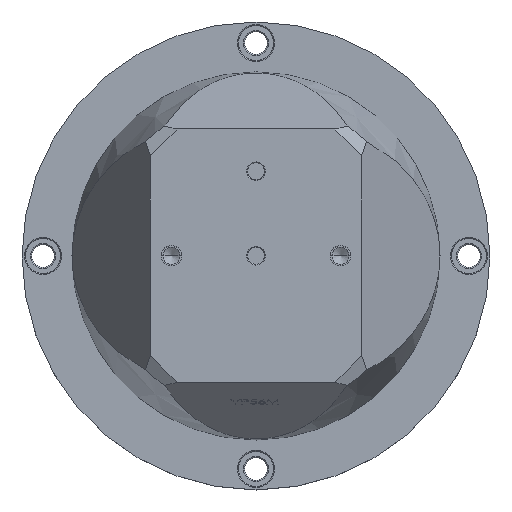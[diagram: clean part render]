
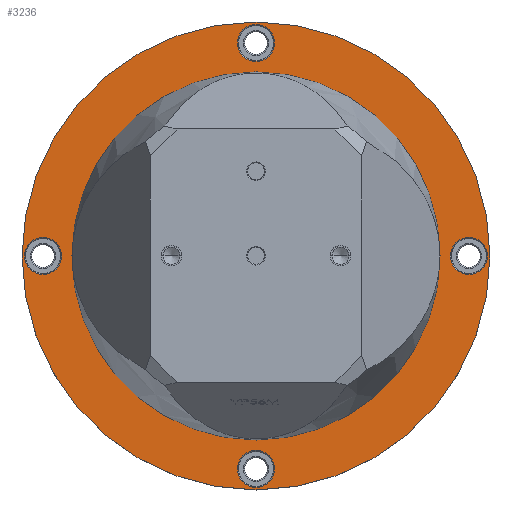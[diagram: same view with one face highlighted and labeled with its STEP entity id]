
A CAD part, top view. The second image highlights one B-rep face of the part: STEP entity #3236.
In plain terms, the highlighted planar face has unit normal (0, 0, 1).
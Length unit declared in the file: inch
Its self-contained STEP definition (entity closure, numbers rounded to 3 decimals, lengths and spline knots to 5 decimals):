
#112 = EDGE_LOOP ( 'NONE', ( #7241, #5491 ) ) ;
#124 = DIRECTION ( 'NONE',  ( 1., 0., 0. ) ) ;
#227 = CARTESIAN_POINT ( 'NONE',  ( 4.96063, 0., 1. ) ) ;
#267 = CARTESIAN_POINT ( 'NONE',  ( 5.39188, 0., 1. ) ) ;
#389 = EDGE_CURVE ( 'NONE', #5970, #6021, #2537, .T. ) ;
#438 = DIRECTION ( 'NONE',  ( 1., 0., 0. ) ) ;
#462 = AXIS2_PLACEMENT_3D ( 'NONE', #791, #4853, #1368 ) ;
#487 = DIRECTION ( 'NONE',  ( 0., 0., -1. ) ) ;
#607 = CARTESIAN_POINT ( 'NONE',  ( 0., 4.96063, 1. ) ) ;
#620 = AXIS2_PLACEMENT_3D ( 'NONE', #7422, #3901, #438 ) ;
#633 = CARTESIAN_POINT ( 'NONE',  ( -0.43125, 4.96063, 1. ) ) ;
#791 = CARTESIAN_POINT ( 'NONE',  ( -4.96063, 0., 1. ) ) ;
#863 = FACE_BOUND ( 'NONE', #957, .T. ) ;
#957 = EDGE_LOOP ( 'NONE', ( #1129, #6102 ) ) ;
#988 = CARTESIAN_POINT ( 'NONE',  ( -4.28744, 0., 1. ) ) ;
#1089 = VERTEX_POINT ( 'NONE', #5939 ) ;
#1129 = ORIENTED_EDGE ( 'NONE', *, *, #3529, .F. ) ;
#1196 = DIRECTION ( 'NONE',  ( 1., 0., 0. ) ) ;
#1211 = CIRCLE ( 'NONE', #2397, 0.43125 ) ;
#1218 = AXIS2_PLACEMENT_3D ( 'NONE', #1811, #5896, #2385 ) ;
#1327 = CIRCLE ( 'NONE', #2908, 5.45 ) ;
#1337 = DIRECTION ( 'NONE',  ( 0., 0., 1. ) ) ;
#1368 = DIRECTION ( 'NONE',  ( 1., 0., 0. ) ) ;
#1665 = CIRCLE ( 'NONE', #7474, 4.28744 ) ;
#1714 = CIRCLE ( 'NONE', #1218, 5.45 ) ;
#1801 = EDGE_CURVE ( 'NONE', #4294, #6140, #6081, .T. ) ;
#1811 = CARTESIAN_POINT ( 'NONE',  ( 0., 0., 1. ) ) ;
#1813 = CARTESIAN_POINT ( 'NONE',  ( -0.43125, -4.96063, 1. ) ) ;
#1836 = DIRECTION ( 'NONE',  ( 0., 0., 1. ) ) ;
#1889 = AXIS2_PLACEMENT_3D ( 'NONE', #4818, #1337, #5401 ) ;
#2039 = CARTESIAN_POINT ( 'NONE',  ( 0., 0., 1. ) ) ;
#2108 = VERTEX_POINT ( 'NONE', #633 ) ;
#2110 = EDGE_CURVE ( 'NONE', #6021, #5970, #3689, .T. ) ;
#2214 = VERTEX_POINT ( 'NONE', #6616 ) ;
#2216 = FACE_BOUND ( 'NONE', #5484, .T. ) ;
#2217 = EDGE_CURVE ( 'NONE', #7046, #5498, #6438, .T. ) ;
#2225 = DIRECTION ( 'NONE',  ( 0., 0., -1. ) ) ;
#2385 = DIRECTION ( 'NONE',  ( -1., 0., 0. ) ) ;
#2386 = EDGE_LOOP ( 'NONE', ( #5096, #6830 ) ) ;
#2393 = FACE_BOUND ( 'NONE', #2386, .T. ) ;
#2397 = AXIS2_PLACEMENT_3D ( 'NONE', #2725, #6845, #3311 ) ;
#2420 = AXIS2_PLACEMENT_3D ( 'NONE', #7482, #487, #4533 ) ;
#2445 = CARTESIAN_POINT ( 'NONE',  ( 0., 0., 1. ) ) ;
#2452 = CIRCLE ( 'NONE', #6097, 0.43125 ) ;
#2536 = EDGE_LOOP ( 'NONE', ( #6268, #7271 ) ) ;
#2537 = CIRCLE ( 'NONE', #6289, 0.43125 ) ;
#2609 = EDGE_CURVE ( 'NONE', #2214, #3746, #1327, .T. ) ;
#2626 = DIRECTION ( 'NONE',  ( -1., 0., 0. ) ) ;
#2725 = CARTESIAN_POINT ( 'NONE',  ( 0., -4.96063, 1. ) ) ;
#2732 = ORIENTED_EDGE ( 'NONE', *, *, #2609, .F. ) ;
#2908 = AXIS2_PLACEMENT_3D ( 'NONE', #5730, #2225, #6335 ) ;
#3018 = ORIENTED_EDGE ( 'NONE', *, *, #5097, .T. ) ;
#3037 = DIRECTION ( 'NONE',  ( 0., 0., 1. ) ) ;
#3236 = ADVANCED_FACE ( 'NONE', ( #5307, #863, #5502, #2393, #3953, #2216 ), #5680, .F. ) ;
#3311 = DIRECTION ( 'NONE',  ( 1., 0., 0. ) ) ;
#3335 = EDGE_CURVE ( 'NONE', #2108, #1089, #4394, .T. ) ;
#3346 = AXIS2_PLACEMENT_3D ( 'NONE', #2445, #3615, #4192 ) ;
#3521 = CARTESIAN_POINT ( 'NONE',  ( 0.43125, -4.96063, 1. ) ) ;
#3529 = EDGE_CURVE ( 'NONE', #5498, #7046, #7450, .T. ) ;
#3601 = DIRECTION ( 'NONE',  ( 0., 0., 1. ) ) ;
#3615 = DIRECTION ( 'NONE',  ( 0., 0., -1. ) ) ;
#3689 = CIRCLE ( 'NONE', #4887, 0.43125 ) ;
#3746 = VERTEX_POINT ( 'NONE', #3925 ) ;
#3901 = DIRECTION ( 'NONE',  ( 0., 0., 1. ) ) ;
#3925 = CARTESIAN_POINT ( 'NONE',  ( -5.45, 0., 1. ) ) ;
#3933 = ORIENTED_EDGE ( 'NONE', *, *, #6692, .F. ) ;
#3953 = FACE_OUTER_BOUND ( 'NONE', #4669, .T. ) ;
#4192 = DIRECTION ( 'NONE',  ( -1., 0., 0. ) ) ;
#4264 = EDGE_CURVE ( 'NONE', #5895, #7427, #1211, .T. ) ;
#4294 = VERTEX_POINT ( 'NONE', #5767 ) ;
#4394 = CIRCLE ( 'NONE', #5955, 0.43125 ) ;
#4414 = ORIENTED_EDGE ( 'NONE', *, *, #1801, .T. ) ;
#4533 = DIRECTION ( 'NONE',  ( -1., 0., 0. ) ) ;
#4662 = DIRECTION ( 'NONE',  ( 0., 0., 1. ) ) ;
#4669 = EDGE_LOOP ( 'NONE', ( #3933, #2732 ) ) ;
#4818 = CARTESIAN_POINT ( 'NONE',  ( -4.96063, 0., 1. ) ) ;
#4853 = DIRECTION ( 'NONE',  ( 0., 0., 1. ) ) ;
#4887 = AXIS2_PLACEMENT_3D ( 'NONE', #7126, #3601, #124 ) ;
#4897 = CARTESIAN_POINT ( 'NONE',  ( -4.52938, 0., 1. ) ) ;
#5096 = ORIENTED_EDGE ( 'NONE', *, *, #5577, .F. ) ;
#5097 = EDGE_CURVE ( 'NONE', #6140, #4294, #1665, .T. ) ;
#5307 = FACE_BOUND ( 'NONE', #112, .T. ) ;
#5312 = CARTESIAN_POINT ( 'NONE',  ( 0., 4.96063, 1. ) ) ;
#5401 = DIRECTION ( 'NONE',  ( 1., 0., 0. ) ) ;
#5457 = DIRECTION ( 'NONE',  ( 1., 0., 0. ) ) ;
#5484 = EDGE_LOOP ( 'NONE', ( #4414, #3018 ) ) ;
#5491 = ORIENTED_EDGE ( 'NONE', *, *, #389, .F. ) ;
#5498 = VERTEX_POINT ( 'NONE', #4897 ) ;
#5502 = FACE_BOUND ( 'NONE', #2536, .T. ) ;
#5577 = EDGE_CURVE ( 'NONE', #7427, #5895, #7239, .T. ) ;
#5680 = PLANE ( 'NONE',  #2420 ) ;
#5730 = CARTESIAN_POINT ( 'NONE',  ( 0., 0., 1. ) ) ;
#5767 = CARTESIAN_POINT ( 'NONE',  ( 4.28744, 0., 1. ) ) ;
#5895 = VERTEX_POINT ( 'NONE', #1813 ) ;
#5896 = DIRECTION ( 'NONE',  ( 0., 0., -1. ) ) ;
#5920 = EDGE_CURVE ( 'NONE', #1089, #2108, #2452, .T. ) ;
#5921 = DIRECTION ( 'NONE',  ( 1., 0., 0. ) ) ;
#5939 = CARTESIAN_POINT ( 'NONE',  ( 0.43125, 4.96063, 1. ) ) ;
#5955 = AXIS2_PLACEMENT_3D ( 'NONE', #607, #4662, #1196 ) ;
#5970 = VERTEX_POINT ( 'NONE', #6550 ) ;
#6021 = VERTEX_POINT ( 'NONE', #267 ) ;
#6081 = CIRCLE ( 'NONE', #3346, 4.28744 ) ;
#6097 = AXIS2_PLACEMENT_3D ( 'NONE', #5312, #1836, #5921 ) ;
#6102 = ORIENTED_EDGE ( 'NONE', *, *, #2217, .F. ) ;
#6134 = DIRECTION ( 'NONE',  ( 0., 0., -1. ) ) ;
#6140 = VERTEX_POINT ( 'NONE', #988 ) ;
#6268 = ORIENTED_EDGE ( 'NONE', *, *, #5920, .F. ) ;
#6289 = AXIS2_PLACEMENT_3D ( 'NONE', #227, #3037, #5457 ) ;
#6335 = DIRECTION ( 'NONE',  ( -1., 0., 0. ) ) ;
#6438 = CIRCLE ( 'NONE', #462, 0.43125 ) ;
#6480 = CARTESIAN_POINT ( 'NONE',  ( -5.39188, 0., 1. ) ) ;
#6550 = CARTESIAN_POINT ( 'NONE',  ( 4.52938, 0., 1. ) ) ;
#6616 = CARTESIAN_POINT ( 'NONE',  ( 5.45, 0., 1. ) ) ;
#6692 = EDGE_CURVE ( 'NONE', #3746, #2214, #1714, .T. ) ;
#6830 = ORIENTED_EDGE ( 'NONE', *, *, #4264, .F. ) ;
#6845 = DIRECTION ( 'NONE',  ( 0., 0., 1. ) ) ;
#7046 = VERTEX_POINT ( 'NONE', #6480 ) ;
#7126 = CARTESIAN_POINT ( 'NONE',  ( 4.96063, 0., 1. ) ) ;
#7239 = CIRCLE ( 'NONE', #620, 0.43125 ) ;
#7241 = ORIENTED_EDGE ( 'NONE', *, *, #2110, .F. ) ;
#7271 = ORIENTED_EDGE ( 'NONE', *, *, #3335, .F. ) ;
#7422 = CARTESIAN_POINT ( 'NONE',  ( 0., -4.96063, 1. ) ) ;
#7427 = VERTEX_POINT ( 'NONE', #3521 ) ;
#7450 = CIRCLE ( 'NONE', #1889, 0.43125 ) ;
#7474 = AXIS2_PLACEMENT_3D ( 'NONE', #2039, #6134, #2626 ) ;
#7482 = CARTESIAN_POINT ( 'NONE',  ( 0., 0., 1. ) ) ;
